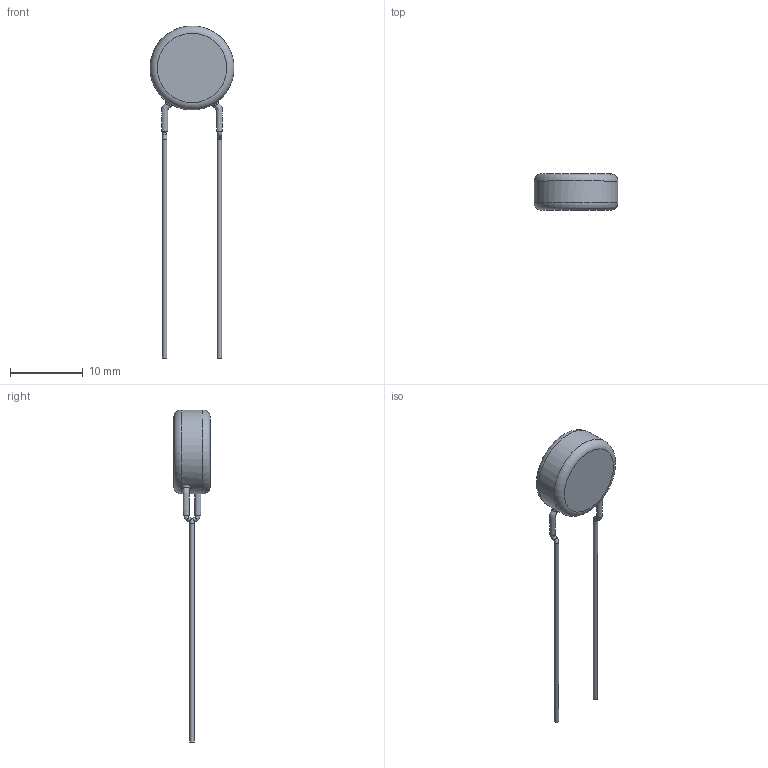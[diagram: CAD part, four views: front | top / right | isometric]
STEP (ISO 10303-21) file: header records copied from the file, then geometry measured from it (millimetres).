
FILE_DESCRIPTION(/* description */ (''),/* implementation_level */ '2;1');
FILE_NAME(/* name */ 'I:\Marketing\M6t1\3D-Models\Zchng-Werk-3\Upload for homepage\BCC\AY2\Inline Dia 0,6 LS 7,5\AY2392K43Y5US63V7.stp',/* time_stamp */ '2020-11-06T08:59:51+01:00',/* author */ ('truediger'),/* organization */ (''),/* preprocessor_version */ 'ST-DEVELOPER v18',/* originating_system */ 'Autodesk Inventor 2020',/* authorisation */ '');
FILE_SCHEMA (('AUTOMOTIVE_DESIGN { 1 0 10303 214 3 1 1 }'));
Length unit declared in the file: millimetre
Products named in the file (1): Bauteil1
Bounding box: 11.49 x 5 x 45.5 mm (x, y, z)
Volume: 526.9 mm3; surface area: 495.7 mm2
Topology: 1 solids, 1 shells, 29 faces, 73 edges, 48 vertices
Faces by surface type: cylinder 9, bspline 8, torus 6, plane 6
Full cylindrical faces by diameter (mm): 0.6 x4, 11.5 x1
Entity records: 2562 total; most frequent: CARTESIAN_POINT 1821, ORIENTED_EDGE 146, DIRECTION 141, EDGE_CURVE 73, AXIS2_PLACEMENT_3D 68, VERTEX_POINT 48, CIRCLE 44, EDGE_LOOP 31
